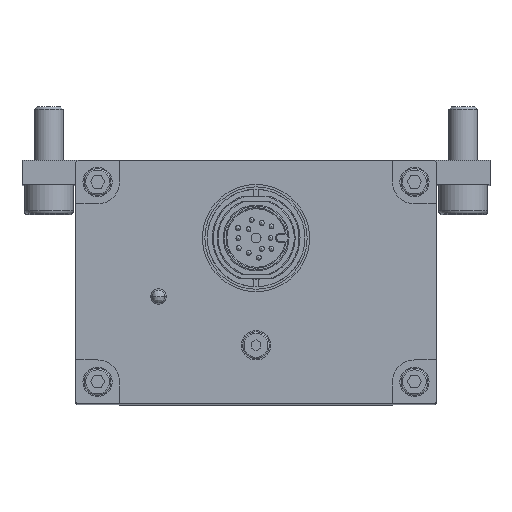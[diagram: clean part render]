
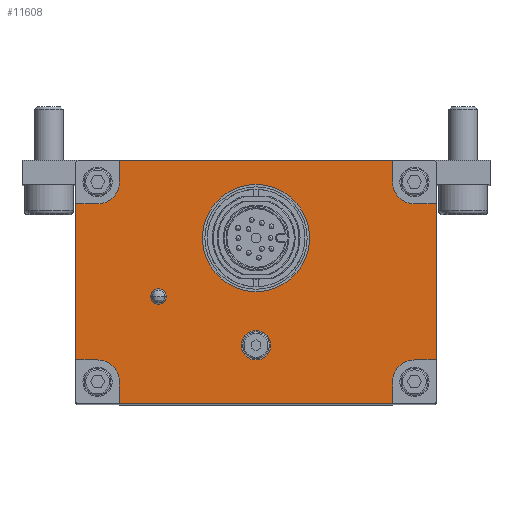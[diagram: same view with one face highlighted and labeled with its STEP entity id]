
A CAD part, top view. The second image highlights one B-rep face of the part: STEP entity #11608.
In plain terms, the highlighted planar face has unit normal (0, 0, 1).
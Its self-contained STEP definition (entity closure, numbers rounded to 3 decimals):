
#11436=CARTESIAN_POINT('',(105.052,36.897,265.678));
#11437=DIRECTION('',(0.0,0.0,1.0));
#11438=DIRECTION('',(1.0,0.0,0.0));
#11439=AXIS2_PLACEMENT_3D('',#11436,#11437,#11438);
#11440=PLANE('',#11439);
#11441=CARTESIAN_POINT('',(142.052,20.897,265.678));
#11442=VERTEX_POINT('',#11441);
#11443=CARTESIAN_POINT('',(137.552,20.897,265.678));
#11444=VERTEX_POINT('',#11443);
#11445=CARTESIAN_POINT('',(142.052,20.897,265.678));
#11446=DIRECTION('',(-1.0,0.0,0.0));
#11447=VECTOR('',#11446,4.5);
#11448=LINE('',#11445,#11447);
#11449=EDGE_CURVE('',#11442,#11444,#11448,.T.);
#11450=ORIENTED_EDGE('',*,*,#11449,.F.);
#11451=CARTESIAN_POINT('',(142.052,52.897,265.678));
#11452=VERTEX_POINT('',#11451);
#11453=CARTESIAN_POINT('',(142.052,20.897,265.678));
#11454=DIRECTION('',(0.0,1.0,0.0));
#11455=VECTOR('',#11454,32.);
#11456=LINE('',#11453,#11455);
#11457=EDGE_CURVE('',#11442,#11452,#11456,.T.);
#11458=ORIENTED_EDGE('',*,*,#11457,.T.);
#11459=CARTESIAN_POINT('',(137.552,52.897,265.678));
#11460=VERTEX_POINT('',#11459);
#11461=CARTESIAN_POINT('',(142.052,52.897,265.678));
#11462=DIRECTION('',(-1.0,0.0,0.0));
#11463=VECTOR('',#11462,4.5);
#11464=LINE('',#11461,#11463);
#11465=EDGE_CURVE('',#11452,#11460,#11464,.T.);
#11466=ORIENTED_EDGE('',*,*,#11465,.T.);
#11467=CARTESIAN_POINT('',(133.052,57.397,265.678));
#11468=VERTEX_POINT('',#11467);
#11469=CARTESIAN_POINT('',(137.552,57.397,265.678));
#11470=DIRECTION('',(0.0,0.0,-1.0));
#11471=DIRECTION('',(0.0,-1.0,0.0));
#11472=AXIS2_PLACEMENT_3D('',#11469,#11470,#11471);
#11473=CIRCLE('',#11472,4.5);
#11474=EDGE_CURVE('',#11460,#11468,#11473,.T.);
#11475=ORIENTED_EDGE('',*,*,#11474,.T.);
#11476=CARTESIAN_POINT('',(133.052,61.897,265.678));
#11477=VERTEX_POINT('',#11476);
#11478=CARTESIAN_POINT('',(133.052,61.897,265.678));
#11479=DIRECTION('',(0.0,-1.0,0.0));
#11480=VECTOR('',#11479,4.5);
#11481=LINE('',#11478,#11480);
#11482=EDGE_CURVE('',#11477,#11468,#11481,.T.);
#11483=ORIENTED_EDGE('',*,*,#11482,.F.);
#11484=CARTESIAN_POINT('',(77.052,61.897,265.678));
#11485=VERTEX_POINT('',#11484);
#11486=CARTESIAN_POINT('',(133.052,61.897,265.678));
#11487=DIRECTION('',(-1.0,0.0,0.0));
#11488=VECTOR('',#11487,56.);
#11489=LINE('',#11486,#11488);
#11490=EDGE_CURVE('',#11477,#11485,#11489,.T.);
#11491=ORIENTED_EDGE('',*,*,#11490,.T.);
#11492=CARTESIAN_POINT('',(77.052,57.397,265.678));
#11493=VERTEX_POINT('',#11492);
#11494=CARTESIAN_POINT('',(77.052,61.897,265.678));
#11495=DIRECTION('',(0.0,-1.0,0.0));
#11496=VECTOR('',#11495,4.5);
#11497=LINE('',#11494,#11496);
#11498=EDGE_CURVE('',#11485,#11493,#11497,.T.);
#11499=ORIENTED_EDGE('',*,*,#11498,.T.);
#11500=CARTESIAN_POINT('',(72.552,52.897,265.678));
#11501=VERTEX_POINT('',#11500);
#11502=CARTESIAN_POINT('',(72.552,57.397,265.678));
#11503=DIRECTION('',(0.0,0.0,-1.0));
#11504=DIRECTION('',(1.0,0.0,0.0));
#11505=AXIS2_PLACEMENT_3D('',#11502,#11503,#11504);
#11506=CIRCLE('',#11505,4.5);
#11507=EDGE_CURVE('',#11493,#11501,#11506,.T.);
#11508=ORIENTED_EDGE('',*,*,#11507,.T.);
#11509=CARTESIAN_POINT('',(68.052,52.897,265.678));
#11510=VERTEX_POINT('',#11509);
#11511=CARTESIAN_POINT('',(68.052,52.897,265.678));
#11512=DIRECTION('',(1.0,0.0,0.0));
#11513=VECTOR('',#11512,4.5);
#11514=LINE('',#11511,#11513);
#11515=EDGE_CURVE('',#11510,#11501,#11514,.T.);
#11516=ORIENTED_EDGE('',*,*,#11515,.F.);
#11517=CARTESIAN_POINT('',(68.052,20.897,265.678));
#11518=VERTEX_POINT('',#11517);
#11519=CARTESIAN_POINT('',(68.052,52.897,265.678));
#11520=DIRECTION('',(0.0,-1.0,0.0));
#11521=VECTOR('',#11520,32.);
#11522=LINE('',#11519,#11521);
#11523=EDGE_CURVE('',#11510,#11518,#11522,.T.);
#11524=ORIENTED_EDGE('',*,*,#11523,.T.);
#11525=CARTESIAN_POINT('',(72.552,20.897,265.678));
#11526=VERTEX_POINT('',#11525);
#11527=CARTESIAN_POINT('',(68.052,20.897,265.678));
#11528=DIRECTION('',(1.0,0.0,0.0));
#11529=VECTOR('',#11528,4.5);
#11530=LINE('',#11527,#11529);
#11531=EDGE_CURVE('',#11518,#11526,#11530,.T.);
#11532=ORIENTED_EDGE('',*,*,#11531,.T.);
#11533=CARTESIAN_POINT('',(77.052,16.397,265.678));
#11534=VERTEX_POINT('',#11533);
#11535=CARTESIAN_POINT('',(72.552,16.397,265.678));
#11536=DIRECTION('',(0.0,0.0,-1.0));
#11537=DIRECTION('',(0.0,1.0,0.0));
#11538=AXIS2_PLACEMENT_3D('',#11535,#11536,#11537);
#11539=CIRCLE('',#11538,4.5);
#11540=EDGE_CURVE('',#11526,#11534,#11539,.T.);
#11541=ORIENTED_EDGE('',*,*,#11540,.T.);
#11542=CARTESIAN_POINT('',(77.052,11.897,265.678));
#11543=VERTEX_POINT('',#11542);
#11544=CARTESIAN_POINT('',(77.052,11.897,265.678));
#11545=DIRECTION('',(0.0,1.0,0.0));
#11546=VECTOR('',#11545,4.5);
#11547=LINE('',#11544,#11546);
#11548=EDGE_CURVE('',#11543,#11534,#11547,.T.);
#11549=ORIENTED_EDGE('',*,*,#11548,.F.);
#11550=CARTESIAN_POINT('',(133.052,11.897,265.678));
#11551=VERTEX_POINT('',#11550);
#11552=CARTESIAN_POINT('',(77.052,11.897,265.678));
#11553=DIRECTION('',(1.0,0.0,0.0));
#11554=VECTOR('',#11553,56.);
#11555=LINE('',#11552,#11554);
#11556=EDGE_CURVE('',#11543,#11551,#11555,.T.);
#11557=ORIENTED_EDGE('',*,*,#11556,.T.);
#11558=CARTESIAN_POINT('',(133.052,16.397,265.678));
#11559=VERTEX_POINT('',#11558);
#11560=CARTESIAN_POINT('',(133.052,11.897,265.678));
#11561=DIRECTION('',(0.0,1.0,0.0));
#11562=VECTOR('',#11561,4.5);
#11563=LINE('',#11560,#11562);
#11564=EDGE_CURVE('',#11551,#11559,#11563,.T.);
#11565=ORIENTED_EDGE('',*,*,#11564,.T.);
#11566=CARTESIAN_POINT('',(137.552,16.397,265.678));
#11567=DIRECTION('',(0.0,0.0,-1.0));
#11568=DIRECTION('',(-1.0,0.0,0.0));
#11569=AXIS2_PLACEMENT_3D('',#11566,#11567,#11568);
#11570=CIRCLE('',#11569,4.5);
#11571=EDGE_CURVE('',#11559,#11444,#11570,.T.);
#11572=ORIENTED_EDGE('',*,*,#11571,.T.);
#11573=EDGE_LOOP('',(#11450,#11458,#11466,#11475,#11483,#11491,#11499,#11508,#11516,#11524,#11532,#11541,#11549,#11557,#11565,#11572));
#11574=FACE_OUTER_BOUND('',#11573,.T.);
#11575=CARTESIAN_POINT('',(94.052,45.897,265.678));
#11576=VERTEX_POINT('',#11575);
#11577=CARTESIAN_POINT('',(105.052,45.897,265.678));
#11578=DIRECTION('',(0.0,0.0,-1.0));
#11579=DIRECTION('',(1.0,0.0,0.0));
#11580=AXIS2_PLACEMENT_3D('',#11577,#11578,#11579);
#11581=CIRCLE('',#11580,11.0);
#11582=EDGE_CURVE('',#11576,#11576,#11581,.T.);
#11583=ORIENTED_EDGE('',*,*,#11582,.T.);
#11584=EDGE_LOOP('',(#11583));
#11585=FACE_BOUND('',#11584,.T.);
#11586=CARTESIAN_POINT('',(108.052,23.897,265.678));
#11587=VERTEX_POINT('',#11586);
#11588=CARTESIAN_POINT('',(105.052,23.897,265.678));
#11589=DIRECTION('',(0.0,0.0,1.0));
#11590=DIRECTION('',(-1.0,0.0,0.0));
#11591=AXIS2_PLACEMENT_3D('',#11588,#11589,#11590);
#11592=CIRCLE('',#11591,3.);
#11593=EDGE_CURVE('',#11587,#11587,#11592,.T.);
#11594=ORIENTED_EDGE('',*,*,#11593,.F.);
#11595=EDGE_LOOP('',(#11594));
#11596=FACE_BOUND('',#11595,.T.);
#11597=CARTESIAN_POINT('',(86.352,33.897,265.678));
#11598=VERTEX_POINT('',#11597);
#11599=CARTESIAN_POINT('',(85.052,33.897,265.678));
#11600=DIRECTION('',(0.0,0.0,1.0));
#11601=DIRECTION('',(-1.0,0.0,0.0));
#11602=AXIS2_PLACEMENT_3D('',#11599,#11600,#11601);
#11603=CIRCLE('',#11602,1.3);
#11604=EDGE_CURVE('',#11598,#11598,#11603,.T.);
#11605=ORIENTED_EDGE('',*,*,#11604,.F.);
#11606=EDGE_LOOP('',(#11605));
#11607=FACE_BOUND('',#11606,.T.);
#11608=ADVANCED_FACE('',(#11574,#11585,#11596,#11607),#11440,.T.);
